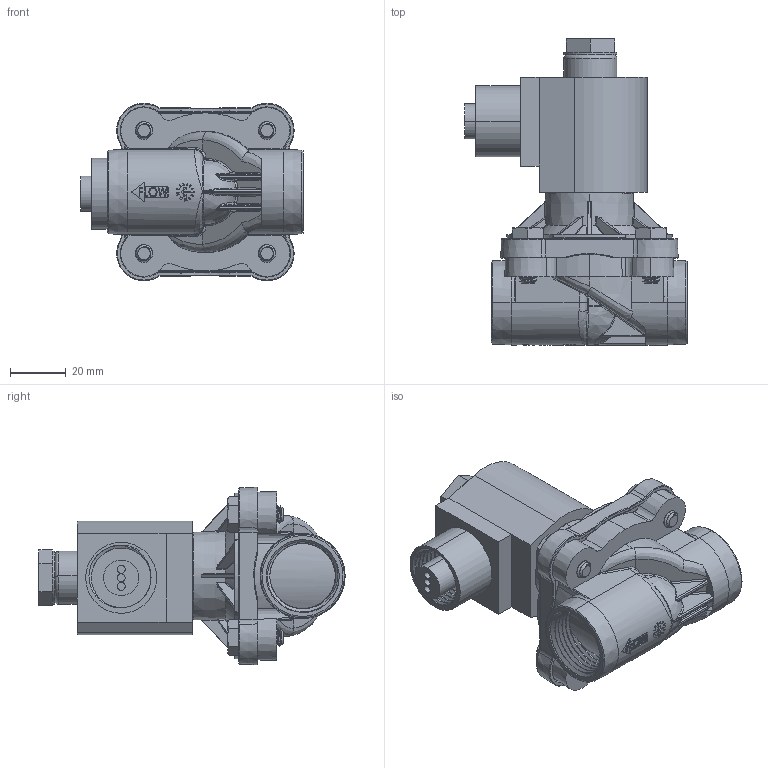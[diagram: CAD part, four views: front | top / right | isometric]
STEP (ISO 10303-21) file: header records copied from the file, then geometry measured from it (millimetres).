
FILE_DESCRIPTION (( 'STEP AP203' ), '1' );
FILE_NAME ('S212GxxxxPEG5.STEP', '2024-05-02T18:44:47', ( '' ), ( '' ), 'SwSTEP 2.0', 'SolidWorks 2023', '' );
FILE_SCHEMA (( 'CONFIG_CONTROL_DESIGN' ));
Length unit declared in the file: millimetre
Products named in the file (1): S212GxxxxPEG5
Bounding box: 79.54 x 109.49 x 63.5 mm (x, y, z)
Volume: 168332.4 mm3; surface area: 36704.4 mm2
Topology: 1 solids, 1 shells, 2019 faces, 5148 edges, 3097 vertices
Faces by surface type: bspline 855, plane 504, cylinder 252, torus 174, cone 149, sphere 85
Entity records: 105903 total; most frequent: CARTESIAN_POINT 64548, ORIENTED_EDGE 10070, DIRECTION 6456, EDGE_CURVE 5035, VERTEX_POINT 3094, AXIS2_PLACEMENT_3D 2393, EDGE_LOOP 2095, FACE_OUTER_BOUND 2019
